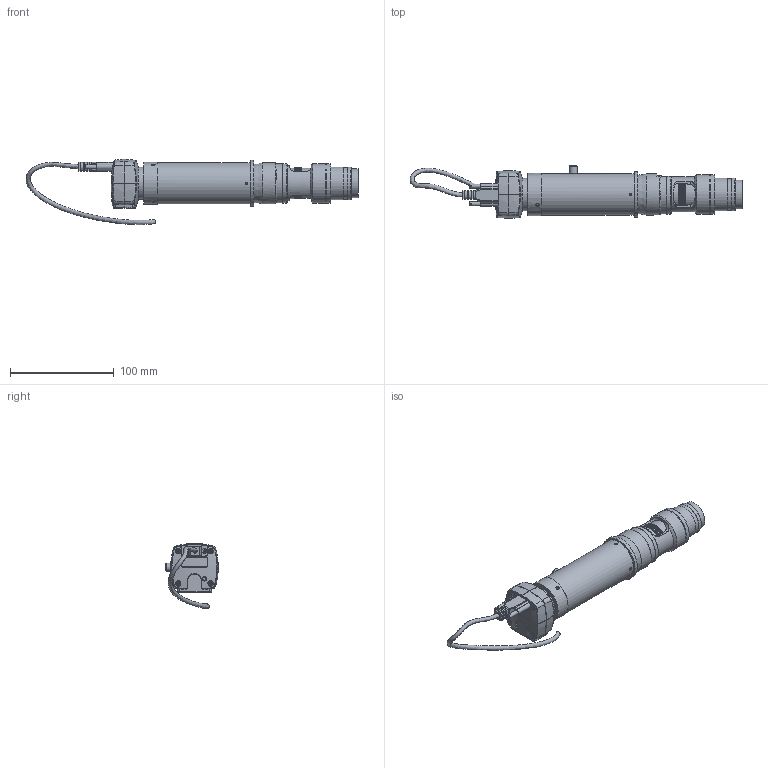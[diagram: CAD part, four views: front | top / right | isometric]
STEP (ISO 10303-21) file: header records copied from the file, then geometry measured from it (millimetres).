
FILE_DESCRIPTION(/* description */ (''),/* implementation_level */ '2;1');
FILE_NAME(/* name */ 'S:\Bureau-Technique\Vidéo\MA 730-Z1-174.stp',/* time_stamp */ '2017-03-30T08:54:46+02:00',/* author */ ('ms'),/* organization */ ('Marcel Aubert'),/* preprocessor_version */ 'ST-DEVELOPER v16.5',/* originating_system */ 'Autodesk Inventor 2017',/* authorisation */ '');
FILE_SCHEMA (('AUTOMOTIVE_DESIGN { 1 0 10303 214 3 1 1 }'));
Products named in the file (1): Pièce1
Bounding box: 319.58 x 50.7 x 62.7 mm (x, y, z)
Volume: 195368.4 mm3; surface area: 66208 mm2
Topology: 1 solids, 11 shells, 1156 faces, 3066 edges, 2004 vertices
Faces by surface type: plane 579, cylinder 333, bspline 125, cone 58, torus 42, sphere 19
Full cylindrical faces by diameter (mm): 1.88 x4, 2 x2, 2.3 x1, 2.459 x11, 2.5 x2, 3 x3, 3.2 x3, 3.242 x3, 3.5 x5, 3.9 x2, 4 x3, 5 x1, 6.7 x1, 7.1 x2, 7.4 x2, 7.9 x1, 8.6 x3, 19 x1, 20 x1, 22.5 x1, 22.7 x1, 22.9 x1, 24.3 x1, 24.4 x1, 24.605 x2, 26 x2, 26.8 x3, 27 x1, 27.6 x1, 28.4 x1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
Entity records: 55478 total; most frequent: CARTESIAN_POINT 26430, ORIENTED_EDGE 5750, DIRECTION 5711, EDGE_CURVE 2868, AXIS2_PLACEMENT_3D 2149, VERTEX_POINT 1953, LINE 1413, VECTOR 1413
